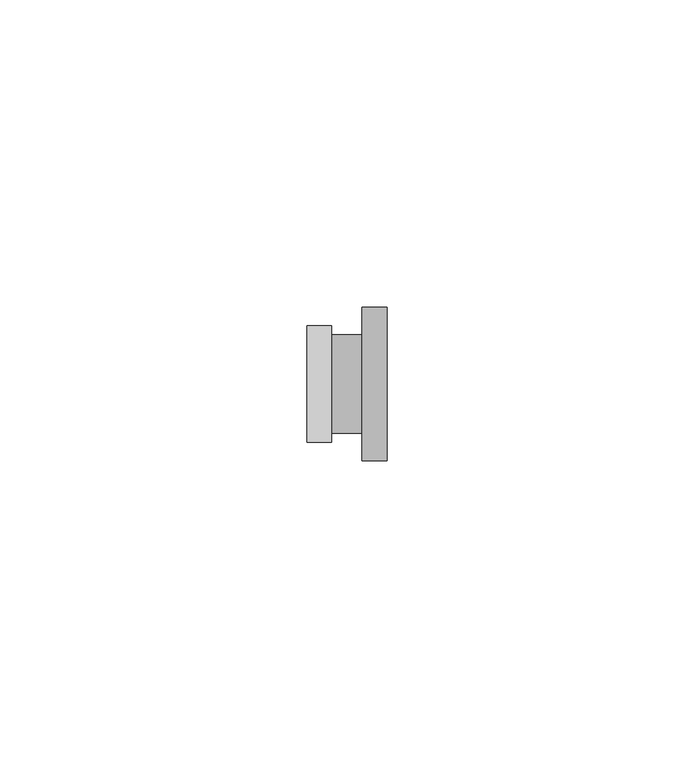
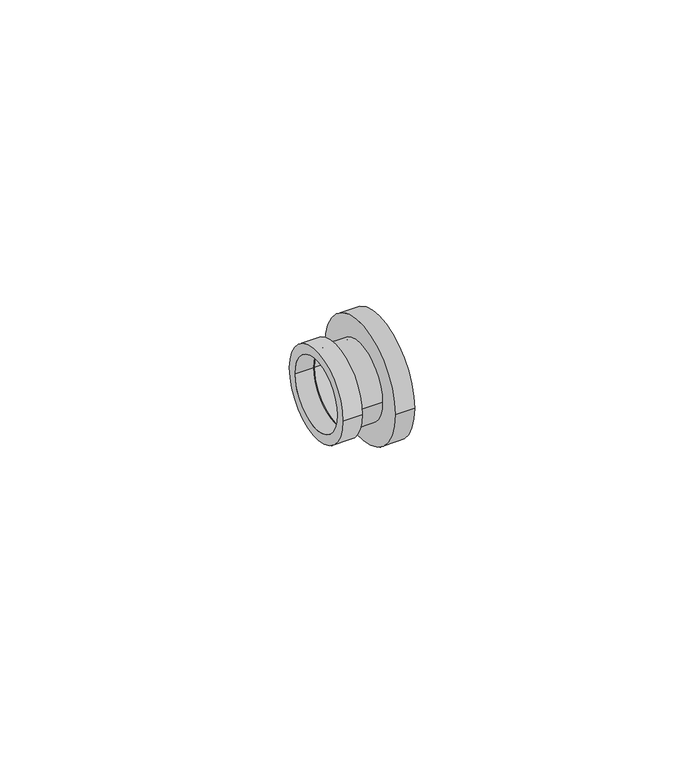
"""IFC4 building model written with IfcOpenShell, lengths in millimetres: pipe fitting geometry, БИР ПЕКС_НПР_Соединитель_Медь : Соединитель медь (пайка) — ПЕКС."""

from ifc_helpers import new_model, si_unit, point, frame, origin, origin_2d, place, context, project, spatial, circle_curve, trimmed, segment, composite_curve, outline, extrude, source, transform, mapped, element, save


def pipe_fitting_8c92095e(model_context):
    return source(origin(), model_context, "Body", "SweptSolid", [
        extrude(outline(composite_curve([segment(trimmed(circle_curve(origin_2d(), 8.0), [point((-8.0, 0.0))], [point((8.0, 0.0))], False, "CARTESIAN"), True, "CONTINUOUS"), segment(trimmed(circle_curve(origin_2d(), 8.0), [point((8.0, 0.0))], [point((-8.0, 0.0))], False, "CARTESIAN"), True, "CONTINUOUS")], self_intersect=False), holes=[composite_curve([segment(trimmed(circle_curve(origin_2d(), 7.5), [point((-7.5, 0.0))], [point((7.5, 0.0))], True, "CARTESIAN"), True, "CONTINUOUS"), segment(trimmed(circle_curve(origin_2d(), 7.5), [point((7.5, 0.0))], [point((-7.5, 0.0))], True, "CARTESIAN"), True, "CONTINUOUS")], self_intersect=False)]), frame((-2.5, 0.0, 0.0), z_axis=(1.0, 0.0, 0.0), x_axis=(0.0, 1.0, 0.0)), (0.0, 0.0, 1.0), 5.0),
        extrude(outline(composite_curve([segment(trimmed(circle_curve(origin_2d(), 12.5), [point((-12.5, 0.0))], [point((12.5, 0.0))], False, "CARTESIAN"), True, "CONTINUOUS"), segment(trimmed(circle_curve(origin_2d(), 12.5), [point((12.5, 0.0))], [point((-12.5, 0.0))], False, "CARTESIAN"), True, "CONTINUOUS")], self_intersect=False), holes=[composite_curve([segment(trimmed(circle_curve(origin_2d(), 7.5), [point((-7.5, 0.0))], [point((7.5, 0.0))], True, "CARTESIAN"), True, "CONTINUOUS"), segment(trimmed(circle_curve(origin_2d(), 7.5), [point((7.5, 0.0))], [point((-7.5, 0.0))], True, "CARTESIAN"), True, "CONTINUOUS")], self_intersect=False)]), frame((2.5, 0.0, 0.0), z_axis=(1.0, 0.0, 0.0), x_axis=(0.0, 1.0, 0.0)), (0.0, 0.0, 1.0), 4.0),
        extrude(outline(composite_curve([segment(trimmed(circle_curve(origin_2d(), 9.5), [point((-9.5, 0.0))], [point((9.5, 0.0))], False, "CARTESIAN"), True, "CONTINUOUS"), segment(trimmed(circle_curve(origin_2d(), 9.5), [point((9.5, 0.0))], [point((-9.5, 0.0))], False, "CARTESIAN"), True, "CONTINUOUS")], self_intersect=False), holes=[composite_curve([segment(trimmed(circle_curve(origin_2d(), 7.5), [point((-7.5, 0.0))], [point((7.5, 0.0))], True, "CARTESIAN"), True, "CONTINUOUS"), segment(trimmed(circle_curve(origin_2d(), 7.5), [point((7.5, 0.0))], [point((-7.5, 0.0))], True, "CARTESIAN"), True, "CONTINUOUS")], self_intersect=False)]), frame((-6.5, 0.0, 0.0), z_axis=(1.0, 0.0, 0.0), x_axis=(0.0, 1.0, 0.0)), (0.0, 0.0, 1.0), 4.0),
    ])


if __name__ == "__main__":
    model = new_model("IFC4")
    model_context = context("Model", 3, world=origin())
    ifc_project = project(units=[si_unit("LENGTHUNIT", "METRE", prefix="MILLI")], contexts=[model_context])
    site = spatial("IfcSite", under=ifc_project)
    building = spatial("IfcBuilding", under=site)
    placement = place(None, origin())
    pipe_fitting_shape = pipe_fitting_8c92095e(model_context)
    element("IfcPipeFitting", 1, ObjectType="БИР ПЕКС_НПР_Соединитель_Медь : Соединитель медь (пайка) — ПЕКС", at=placement, inside=building, context=model_context, shape_type="MappedRepresentation", body=[
        mapped(pipe_fitting_shape, transform((0.0, 0.0, 0.0), x_axis=(1.0, 0.0, 0.0), y_axis=(0.0, 1.0, 0.0), z_axis=(0.0, 0.0, 1.0))),
    ])
    save(model, "model.ifc")
